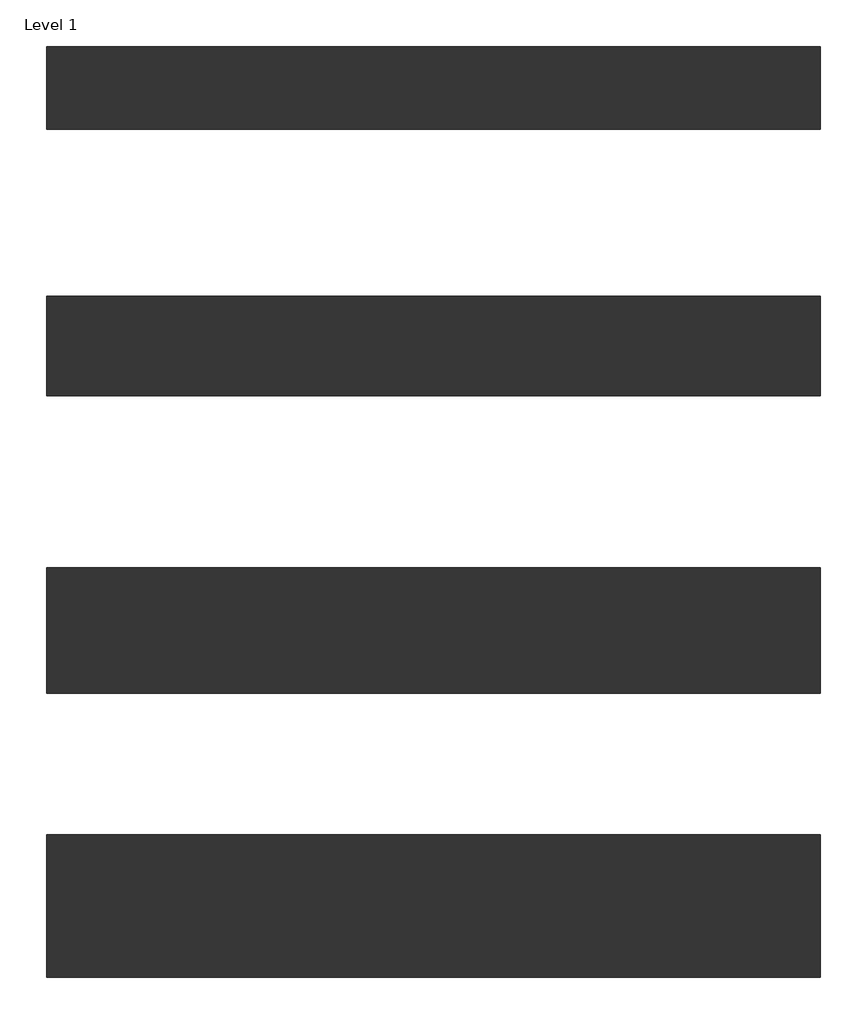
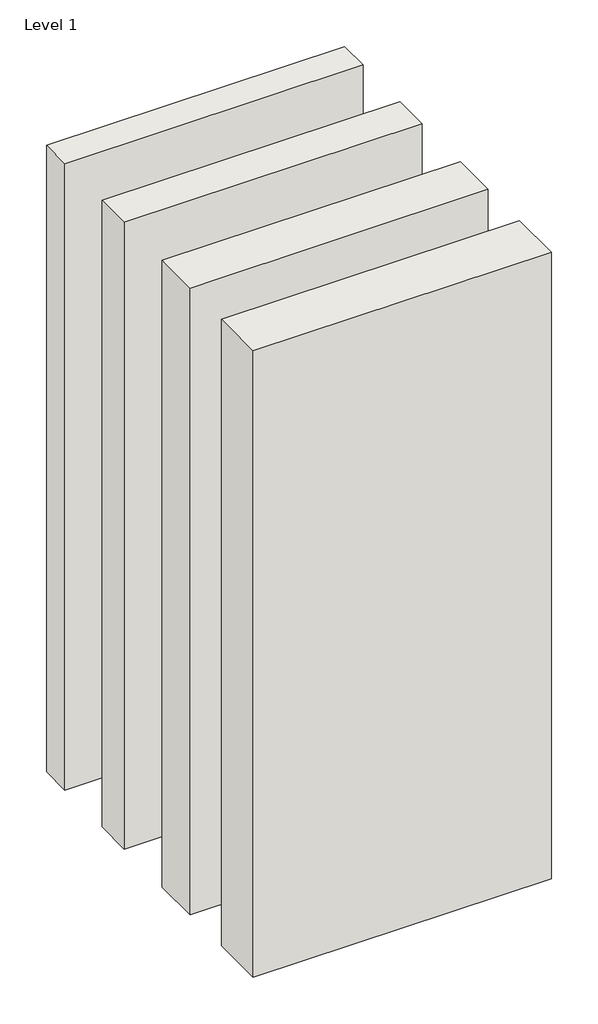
# One storey: 4 walls.
"""IFC4 building model written with IfcOpenShell, lengths in millimetres."""

from ifc_helpers import new_model, si_unit, origin, origin_with_axes, place, context, project, spatial, polyline, outline, extrude, element, save

model = new_model("IFC4")

# Units and contexts
model_context = context("Model", 3, world=origin())
ifc_project = project(units=[si_unit("LENGTHUNIT", "METRE", prefix="MILLI")], contexts=[model_context])

# Site, building, storey
site = spatial("IfcSite", under=ifc_project)
building = spatial("IfcBuilding", under=site)
storey = spatial("IfcBuildingStorey", under=building, Name="Level 1", Elevation=0.0)

# Walls
placement = place(None, origin())
element("IfcWall", 1, ObjectType="Interior-Timber Frame-Double Stud-CSR2355-192mm", at=placement, inside=storey, context=model_context, shape_type="SweptSolid", body=[
    extrude(outline(polyline([(1209.1027791, -2920.5592728), (3009.1027791, -2920.5592728), (3009.1027791, -3112.5592728), (1209.1027791, -3112.5592728), (1209.1027791, -2920.5592728)])), origin_with_axes(), (0.0, 0.0, 1.0), 4000.0),
])
element("IfcWall", 2, ObjectType="Interior-Timber Frame-Double Stud-CSR2355-232mm", at=placement, inside=storey, context=model_context, shape_type="SweptSolid", body=[
    extrude(outline(polyline([(1209.1027791, -3500.5592728), (3009.1027791, -3500.5592728), (3009.1027791, -3732.5592728), (1209.1027791, -3732.5592728), (1209.1027791, -3500.5592728)])), origin_with_axes(), (0.0, 0.0, 1.0), 4000.0),
])
element("IfcWall", 3, ObjectType="Interior-Timber Frame-Double Stud-CSR2355-292mm", at=placement, inside=storey, context=model_context, shape_type="SweptSolid", body=[
    extrude(outline(polyline([(1209.1027791, -4132.5592728), (3009.1027791, -4132.5592728), (3009.1027791, -4424.5592728), (1209.1027791, -4424.5592728), (1209.1027791, -4132.5592728)])), origin_with_axes(), (0.0, 0.0, 1.0), 4000.0),
])
element("IfcWall", 4, ObjectType="Interior-Timber Frame-Double Stud-CSR2355-332mm", at=placement, inside=storey, context=model_context, shape_type="SweptSolid", body=[
    extrude(outline(polyline([(1209.1027791, -4752.5592728), (3009.1027791, -4752.5592728), (3009.1027791, -5084.5592728), (1209.1027791, -5084.5592728), (1209.1027791, -4752.5592728)])), origin_with_axes(), (0.0, 0.0, 1.0), 4000.0),
])

save(model, "model.ifc")
